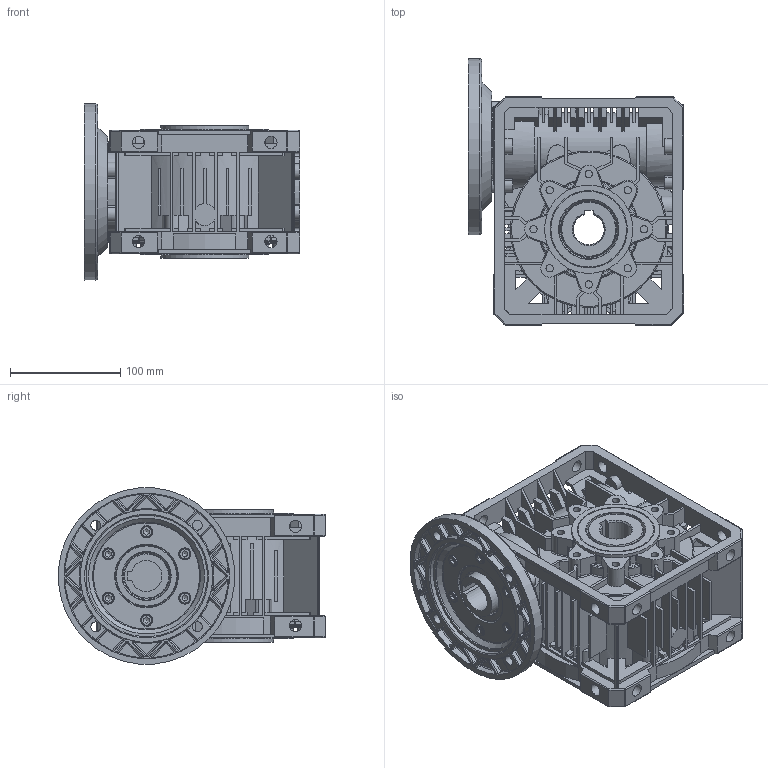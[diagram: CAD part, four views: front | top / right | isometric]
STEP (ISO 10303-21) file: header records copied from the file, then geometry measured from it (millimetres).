
FILE_DESCRIPTION((''),'2;1');
FILE_NAME('C:\Users\m.piscopiello.SITIRIDUTTORI\Desktop\FIGURINI VSF\FIGURINI U-MU 75\MU 75 PAM 112 B14.stp','2016-03-03T16:43:18',('m.piscopiello'),(''),'Autodesk Inventor 2012','Autodesk Inventor 2012','');
FILE_SCHEMA(('CONFIG_CONTROL_DESIGN'));
Length unit declared in the file: millimetre
Products named in the file (1): 3F021130
Bounding box: 195 x 241.7 x 159.39 mm (x, y, z)
Volume: 1319100.2 mm3; surface area: 509289.7 mm2
Topology: 24 solids, 24 shells, 2534 faces, 6570 edges, 3944 vertices
Faces by surface type: plane 1117, cylinder 731, torus 321, sphere 157, bspline 119, cone 89
Full cylindrical faces by diameter (mm): 4.917 x6, 6 x6, 6.647 x22, 7 x6, 8 x16, 8.5 x8, 9 x4, 10 x6, 11 x20, 13 x8, 40 x2, 43.75 x1, 45.438 x1, 50 x3, 53.75 x2, 54 x2, 55.438 x2, 56 x2, 58.875 x1, 62 x2, 65.4 x1, 66.6 x2, 68 x2, 70 x4, 80 x3, 105 x1, 110 x1, 120 x1, 134 x1, 150 x1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
Entity records: 78657 total; most frequent: CARTESIAN_POINT 18111, DIRECTION 12975, ORIENTED_EDGE 12288, EDGE_CURVE 6144, AXIS2_PLACEMENT_3D 4880, VERTEX_POINT 3818, VECTOR 3215, LINE 3215
